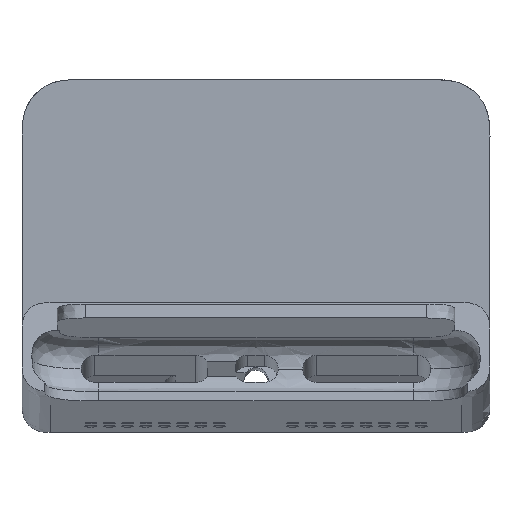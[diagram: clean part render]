
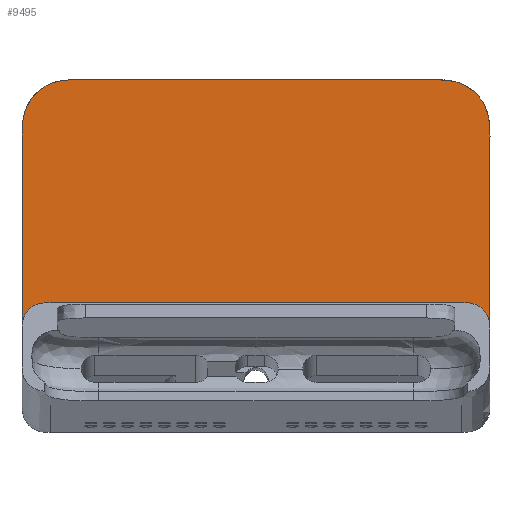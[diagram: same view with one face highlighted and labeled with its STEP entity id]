
A CAD part, top view. The second image highlights one B-rep face of the part: STEP entity #9495.
In plain terms, the highlighted planar face has unit normal (0, 0, 1).
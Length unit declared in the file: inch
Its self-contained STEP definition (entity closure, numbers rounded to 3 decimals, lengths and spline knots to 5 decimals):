
#93=DIRECTION('',(0.,-1.,0.));
#94=VECTOR('',#93,1.54301);
#95=CARTESIAN_POINT('',(-1.65898,-3.85488,-1.22545));
#96=LINE('',#95,#94);
#2462=DIRECTION('',(-1.,0.,0.));
#2463=VECTOR('',#2462,2.518);
#2464=CARTESIAN_POINT('',(1.259,-3.4549,
-1.22545));
#2465=LINE('',#2464,#2463);
#2484=DIRECTION('',(-1.,0.,0.));
#2485=VECTOR('',#2484,2.918);
#2486=CARTESIAN_POINT('',(1.459,-5.19484,
-1.22545));
#2487=LINE('',#2486,#2485);
#2488=CARTESIAN_POINT('',(-1.459,-5.19484,
-1.22545));
#2489=CARTESIAN_POINT('',(-1.46857,-5.19492,
-1.22545));
#2490=CARTESIAN_POINT('',(-1.48665,-5.19524,
-1.22545));
#2491=CARTESIAN_POINT('',(-1.51029,-5.19696,
-1.22545));
#2492=CARTESIAN_POINT('',(-1.53136,-5.2006,
-1.22545));
#2493=CARTESIAN_POINT('',(-1.55072,-5.20647,
-1.22545));
#2494=CARTESIAN_POINT('',(-1.56867,-5.21431,
-1.22545));
#2495=CARTESIAN_POINT('',(-1.58529,-5.22399,
-1.22545));
#2496=CARTESIAN_POINT('',(-1.60059,-5.23553,
-1.22545));
#2497=CARTESIAN_POINT('',(-1.61421,-5.24871,
-1.22545));
#2498=CARTESIAN_POINT('',(-1.62619,-5.26363,
-1.22545));
#2499=CARTESIAN_POINT('',(-1.63643,-5.28003,
-1.22545));
#2500=CARTESIAN_POINT('',(-1.64506,-5.29825,
-1.22545));
#2501=CARTESIAN_POINT('',(-1.65184,-5.31833,
-1.22545));
#2502=CARTESIAN_POINT('',(-1.65638,-5.34112,
-1.22545));
#2503=CARTESIAN_POINT('',(-1.65853,-5.36719,
-1.22545));
#2504=CARTESIAN_POINT('',(-1.65888,-5.38724,
-1.22545));
#2505=CARTESIAN_POINT('',(-1.65897,-5.39789,
-1.22545));
#2507=CARTESIAN_POINT('',(-1.65898,-3.85488,
-1.22545));
#2508=CARTESIAN_POINT('',(-1.65867,-3.80363,
-1.22545));
#2509=CARTESIAN_POINT('',(-1.65615,-3.6932,
-1.22545));
#2510=CARTESIAN_POINT('',(-1.57252,-3.54136,
-1.22545));
#2511=CARTESIAN_POINT('',(-1.42068,-3.45774,
-1.22545));
#2512=CARTESIAN_POINT('',(-1.31025,-3.45521,
-1.22545));
#2513=CARTESIAN_POINT('',(-1.259,-3.4549,
-1.22545));
#2515=CARTESIAN_POINT('',(1.259,-3.4549,
-1.22545));
#2516=CARTESIAN_POINT('',(1.31025,-3.45521,
-1.22545));
#2517=CARTESIAN_POINT('',(1.42068,-3.45774,
-1.22545));
#2518=CARTESIAN_POINT('',(1.57252,-3.54136,
-1.22545));
#2519=CARTESIAN_POINT('',(1.65615,-3.6932,
-1.22545));
#2520=CARTESIAN_POINT('',(1.65867,-3.80363,
-1.22545));
#2521=CARTESIAN_POINT('',(1.65898,-3.85488,
-1.22545));
#2523=DIRECTION('',(0.,1.,0.));
#2524=VECTOR('',#2523,1.54301);
#2525=CARTESIAN_POINT('',(1.65897,-5.39789,
-1.22545));
#2526=LINE('',#2525,#2524);
#2543=CARTESIAN_POINT('',(1.459,-5.19484,
-1.22545));
#2544=CARTESIAN_POINT('',(1.4686,-5.19492,
-1.22545));
#2545=CARTESIAN_POINT('',(1.48675,-5.19524,
-1.22545));
#2546=CARTESIAN_POINT('',(1.51053,-5.19698,
-1.22545));
#2547=CARTESIAN_POINT('',(1.53185,-5.2007,
-1.22545));
#2548=CARTESIAN_POINT('',(1.55125,-5.20666,
-1.22545));
#2549=CARTESIAN_POINT('',(1.56944,-5.21467,
-1.22545));
#2550=CARTESIAN_POINT('',(1.58663,-5.22487,
-1.22545));
#2551=CARTESIAN_POINT('',(1.602,-5.23673,
-1.22545));
#2552=CARTESIAN_POINT('',(1.61564,-5.25028,
-1.22545));
#2553=CARTESIAN_POINT('',(1.62764,-5.26568,
-1.22545));
#2554=CARTESIAN_POINT('',(1.63795,-5.28283,
-1.22545));
#2555=CARTESIAN_POINT('',(1.64626,-5.30132,
-1.22545));
#2556=CARTESIAN_POINT('',(1.65262,-5.32142,
-1.22545));
#2557=CARTESIAN_POINT('',(1.65667,-5.34369,
-1.22545));
#2558=CARTESIAN_POINT('',(1.65855,-5.36867,
-1.22545));
#2559=CARTESIAN_POINT('',(1.65889,-5.38778,
-1.22545));
#2560=CARTESIAN_POINT('',(1.65897,-5.39789,
-1.22545));
#5917=CARTESIAN_POINT('',(-1.65897,-5.39789,
-1.22545));
#5918=VERTEX_POINT('',#5917);
#5919=VERTEX_POINT('',#2488);
#5924=CARTESIAN_POINT('',(-1.65898,-3.85488,
-1.22545));
#5925=VERTEX_POINT('',#5924);
#6212=CARTESIAN_POINT('',(1.259,-3.4549,
-1.22545));
#6213=VERTEX_POINT('',#6212);
#6214=CARTESIAN_POINT('',(1.65898,-3.85488,
-1.22545));
#6215=VERTEX_POINT('',#6214);
#6216=CARTESIAN_POINT('',(-1.259,-3.4549,
-1.22545));
#6217=VERTEX_POINT('',#6216);
#6220=CARTESIAN_POINT('',(1.65897,-5.39789,
-1.22545));
#6221=VERTEX_POINT('',#6220);
#6222=VERTEX_POINT('',#2543);
#9476=CARTESIAN_POINT('',(-1.659,-3.45488,-1.22545));
#9477=DIRECTION('',(0.,0.,1.));
#9478=DIRECTION('',(0.,-1.,0.));
#9479=AXIS2_PLACEMENT_3D('',#9476,#9477,#9478);
#9480=PLANE('',#9479);
#9482=ORIENTED_EDGE('',*,*,#9481,.F.);
#9484=ORIENTED_EDGE('',*,*,#9483,.F.);
#9486=ORIENTED_EDGE('',*,*,#9485,.T.);
#9487=ORIENTED_EDGE('',*,*,#7354,.T.);
#9488=ORIENTED_EDGE('',*,*,#7375,.F.);
#9490=ORIENTED_EDGE('',*,*,#9489,.T.);
#9491=ORIENTED_EDGE('',*,*,#9465,.F.);
#9492=ORIENTED_EDGE('',*,*,#9454,.T.);
#9493=EDGE_LOOP('',(#9482,#9484,#9486,#9487,#9488,#9490,#9491,#9492));
#9494=FACE_OUTER_BOUND('',#9493,.F.);
#9495=ADVANCED_FACE('',(#9494),#9480,.T.);
#2506=B_SPLINE_CURVE_WITH_KNOTS('',3,(#2488,#2489,#2490,#2491,#2492,#2493,#2494,
#2495,#2496,#2497,#2498,#2499,#2500,#2501,#2502,#2503,#2504,#2505),
.UNSPECIFIED.,.F.,.F.,(4,1,1,1,1,1,1,1,1,1,1,1,1,1,1,4),(0.,0.06667,
0.13333,0.2,0.26667,0.33333,0.4,
0.46667,0.53333,0.6,0.66667,0.73333,
0.8,0.86667,0.93333,1.),.UNSPECIFIED.);
#2514=B_SPLINE_CURVE_WITH_KNOTS('',3,(#2507,#2508,#2509,#2510,#2511,#2512,
#2513),.UNSPECIFIED.,.F.,.F.,(4,1,1,1,4),(0.,0.2359,
0.5,0.7641,1.),.UNSPECIFIED.);
#2522=B_SPLINE_CURVE_WITH_KNOTS('',3,(#2515,#2516,#2517,#2518,#2519,#2520,
#2521),.UNSPECIFIED.,.F.,.F.,(4,1,1,1,4),(0.,0.2359,
0.5,0.7641,1.),.UNSPECIFIED.);
#2561=B_SPLINE_CURVE_WITH_KNOTS('',3,(#2543,#2544,#2545,#2546,#2547,#2548,#2549,
#2550,#2551,#2552,#2553,#2554,#2555,#2556,#2557,#2558,#2559,#2560),
.UNSPECIFIED.,.F.,.F.,(4,1,1,1,1,1,1,1,1,1,1,1,1,1,1,4),(0.,0.06667,
0.13333,0.2,0.26667,0.33333,0.4,
0.46667,0.53333,0.6,0.66667,0.73333,
0.8,0.86667,0.93333,1.),.UNSPECIFIED.);
#7354=EDGE_CURVE('',#5919,#5918,#2506,.T.);
#7375=EDGE_CURVE('',#5925,#5918,#96,.T.);
#9454=EDGE_CURVE('',#6213,#6215,#2522,.T.);
#9465=EDGE_CURVE('',#6213,#6217,#2465,.T.);
#9481=EDGE_CURVE('',#6221,#6215,#2526,.T.);
#9483=EDGE_CURVE('',#6222,#6221,#2561,.T.);
#9485=EDGE_CURVE('',#6222,#5919,#2487,.T.);
#9489=EDGE_CURVE('',#5925,#6217,#2514,.T.);
